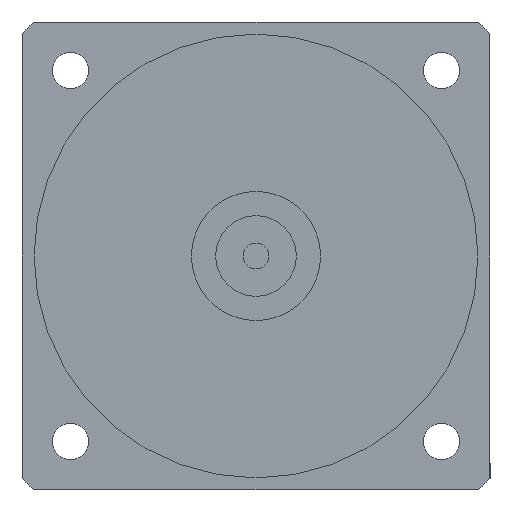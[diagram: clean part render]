
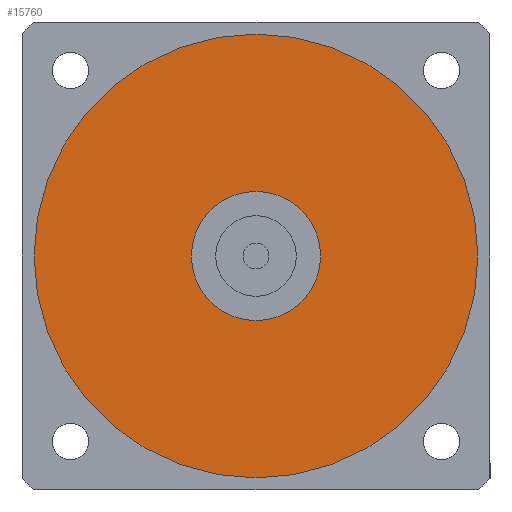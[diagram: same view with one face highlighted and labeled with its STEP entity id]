
A CAD part, left-side view. The second image highlights one B-rep face of the part: STEP entity #15760.
In plain terms, the highlighted planar face has unit normal (-1, 0, 0) as drawn and (0, 0, -1) by its records, which use the part's own axes.
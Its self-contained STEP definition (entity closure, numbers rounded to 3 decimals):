
#15150=CARTESIAN_POINT('',(0.,0.,
-88.5));
#15160=DIRECTION('',(0.,0.,1.));
#15170=DIRECTION('',(0.,-1.,0.));
#15180=AXIS2_PLACEMENT_3D('',#15150,#15160,#15170);
#15190=CIRCLE('',#15180,16.);
#15200=CARTESIAN_POINT('',(0.,-16.,-88.5));
#15210=VERTEX_POINT('',#15200);
#15220=CARTESIAN_POINT('',(16.,0.,-88.5));
#15230=VERTEX_POINT('',#15220);
#15240=EDGE_CURVE('',#15210,#15230,#15190,.T.);
#15370=CARTESIAN_POINT('',(-16.,0.,-88.5));
#15380=VERTEX_POINT('',#15370);
#15410=EDGE_CURVE('',#15380,#15210,#15190,.T.);
#15460=CARTESIAN_POINT('',(0.,0.,
-88.5));
#15470=DIRECTION('',(0.,0.,1.));
#15480=DIRECTION('',(-1.,0.,0.));
#15490=AXIS2_PLACEMENT_3D('',#15460,#15470,#15480);
#15500=PLANE('',#15490);
#15510=CARTESIAN_POINT('',(0.,0.,
-88.5));
#15520=DIRECTION('',(0.,0.,1.));
#15530=DIRECTION('',(0.,-1.,0.));
#15540=AXIS2_PLACEMENT_3D('',#15510,#15520,#15530);
#15550=CIRCLE('',#15540,55.);
#15560=CARTESIAN_POINT('',(0.,-55.,-88.5));
#15570=VERTEX_POINT('',#15560);
#15580=CARTESIAN_POINT('',(55.,0.,-88.5));
#15590=VERTEX_POINT('',#15580);
#15600=EDGE_CURVE('',#15570,#15590,#15550,.T.);
#15610=ORIENTED_EDGE('',*,*,#15600,.F.);
#15620=CARTESIAN_POINT('',(-55.,0.,-88.5));
#15630=VERTEX_POINT('',#15620);
#15640=EDGE_CURVE('',#15590,#15630,#15550,.T.);
#15650=ORIENTED_EDGE('',*,*,#15640,.F.);
#15660=EDGE_CURVE('',#15630,#15570,#15550,.T.);
#15670=ORIENTED_EDGE('',*,*,#15660,.F.);
#15680=EDGE_LOOP('',(#15670,#15650,#15610));
#15690=FACE_OUTER_BOUND('',#15680,.T.);
#15700=EDGE_CURVE('',#15230,#15380,#15190,.T.);
#15710=ORIENTED_EDGE('',*,*,#15700,.T.);
#15720=ORIENTED_EDGE('',*,*,#15240,.T.);
#15730=ORIENTED_EDGE('',*,*,#15410,.T.);
#15740=EDGE_LOOP('',(#15730,#15720,#15710));
#15750=FACE_BOUND('',#15740,.T.);
#15760=ADVANCED_FACE('',(#15690,#15750),#15500,.F.);
